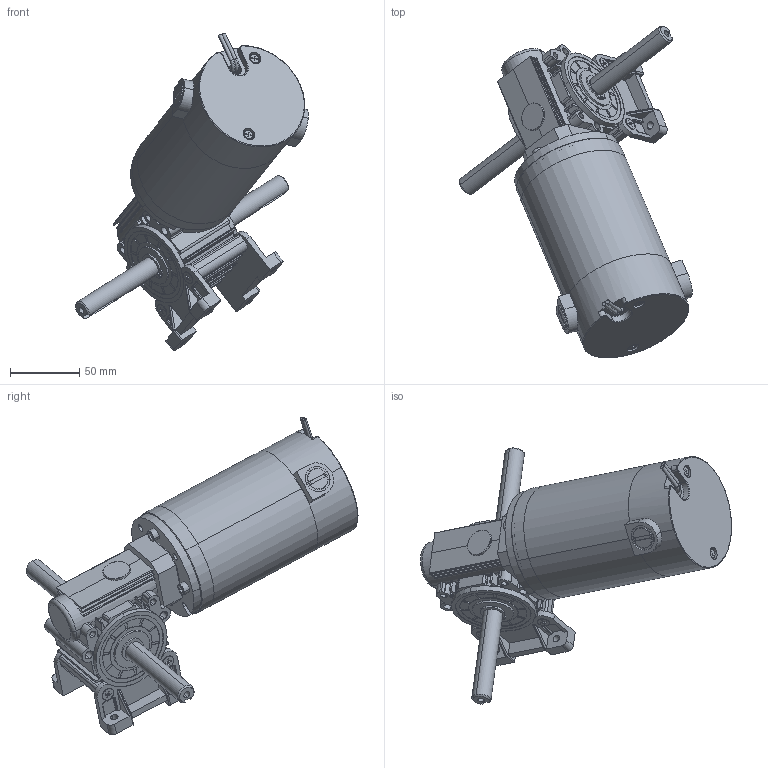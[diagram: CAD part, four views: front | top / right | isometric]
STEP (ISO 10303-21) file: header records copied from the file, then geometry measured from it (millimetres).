
FILE_DESCRIPTION (( 'STEP AP214' ), '1' );
FILE_NAME ('WG7152-ALL .STEP', '2017-06-13T06:17:21', ( 'Sky123.Org' ), ( 'Sky123.Org' ), 'SwSTEP 2.0', 'SolidWorks 2015', '' );
FILE_SCHEMA (( 'AUTOMOTIVE_DESIGN' ));
Length unit declared in the file: millimetre
Products named in the file (1): WG7152-ALL 
Bounding box: 168.64 x 240.55 x 230.15 mm (x, y, z)
Surface area: 157317.6 mm2 (no closed solid volume)
Topology: 0 solids, 50 shells, 806 faces, 2462 edges, 1660 vertices
Faces by surface type: plane 382, cylinder 349, cone 43, torus 29, sphere 3
Entity records: 37329 total; most frequent: CARTESIAN_POINT 6538, DIRECTION 4768, ORIENTED_EDGE 4121, EDGE_CURVE 2447, AXIS2_PLACEMENT_3D 1710, VERTEX_POINT 1660, LINE 1348, VECTOR 1348
